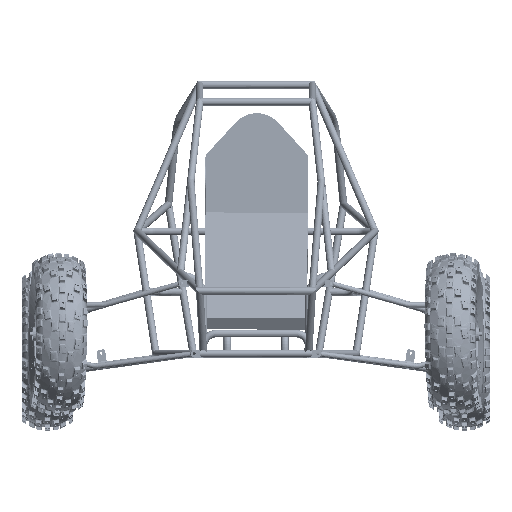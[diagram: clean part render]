
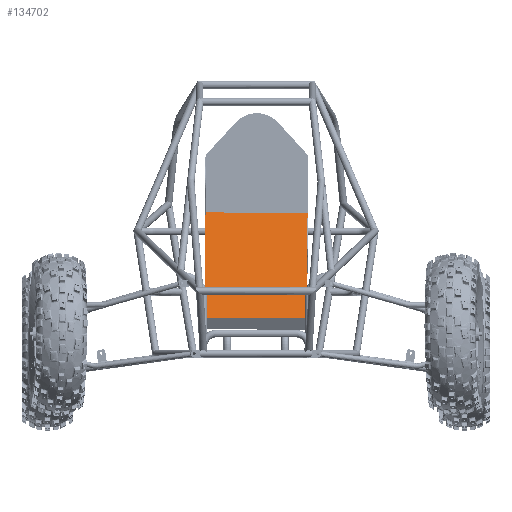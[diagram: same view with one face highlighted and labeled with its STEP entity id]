
A CAD part, top view. The second image highlights one B-rep face of the part: STEP entity #134702.
In plain terms, the highlighted planar face has unit normal (-0.002, 0.292, 0.956) as drawn and (-0.949, 0, -0.314) by its records, which use the part's own axes.
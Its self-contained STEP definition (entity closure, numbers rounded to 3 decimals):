
#5469 = DIRECTION ( 'NONE',  ( -0.314, 0., 0.949 ) ) ;
#5470 = VECTOR ( 'NONE', #5469, 1000. ) ;
#5471 = CARTESIAN_POINT ( 'NONE',  ( 2157.312, 410., -30.586 ) ) ;
#5472 = LINE ( 'NONE', #5471, #5470 ) ;
#5477 = CARTESIAN_POINT ( 'NONE',  ( 2308.43, 410., -486.933 ) ) ;
#5558 = CARTESIAN_POINT ( 'NONE',  ( 2157.312, 410., -30.586 ) ) ;
#7250 = CARTESIAN_POINT ( 'NONE',  ( 2308.43, 0., -486.933 ) ) ;
#7308 = LINE ( 'NONE', #7408, #7407 ) ;
#7310 = CARTESIAN_POINT ( 'NONE',  ( 2157.312, 0., -30.586 ) ) ;
#7405 = DIRECTION ( 'NONE',  ( -0.314, 0., 0.949 ) ) ;
#7407 = VECTOR ( 'NONE', #7405, 1000. ) ;
#7408 = CARTESIAN_POINT ( 'NONE',  ( 2157.312, 0., -30.586 ) ) ;
#8951 = DIRECTION ( 'NONE',  ( 0., -1., 0. ) ) ;
#8952 = VECTOR ( 'NONE', #8951, 1000. ) ;
#8954 = CARTESIAN_POINT ( 'NONE',  ( 2308.43, 410., -486.933 ) ) ;
#8963 = LINE ( 'NONE', #8954, #8952 ) ;
#9645 = DIRECTION ( 'NONE',  ( 0., -1., 0. ) ) ;
#9647 = VECTOR ( 'NONE', #9645, 1000. ) ;
#9649 = CARTESIAN_POINT ( 'NONE',  ( 2157.312, 410., -30.586 ) ) ;
#9671 = LINE ( 'NONE', #9649, #9647 ) ;
#9887 = CARTESIAN_POINT ( 'NONE',  ( 2157.312, 410., -30.586 ) ) ;
#9888 = PLANE ( 'NONE',  #9987 ) ;
#9897 = FACE_OUTER_BOUND ( 'NONE', #134706, .T. ) ;
#9984 = DIRECTION ( 'NONE',  ( 0.314, 0., -0.949 ) ) ;
#9985 = DIRECTION ( 'NONE',  ( 0.949, 0., 0.314 ) ) ;
#9987 = AXIS2_PLACEMENT_3D ( 'NONE', #9887, #9985, #9984 ) ;
#131810 = VERTEX_POINT ( 'NONE', #5477 ) ;
#131821 = EDGE_CURVE ( 'NONE', #131810, #131824, #5472, .T. ) ;
#131824 = VERTEX_POINT ( 'NONE', #5558 ) ;
#132928 = VERTEX_POINT ( 'NONE', #7250 ) ;
#132974 = VERTEX_POINT ( 'NONE', #7310 ) ;
#132985 = EDGE_CURVE ( 'NONE', #132928, #132974, #7308, .T. ) ;
#133967 = EDGE_CURVE ( 'NONE', #131810, #132928, #8963, .T. ) ;
#134513 = EDGE_CURVE ( 'NONE', #131824, #132974, #9671, .T. ) ;
#134515 = ORIENTED_EDGE ( 'NONE', *, *, #134513, .F. ) ;
#134520 = ORIENTED_EDGE ( 'NONE', *, *, #131821, .F. ) ;
#134523 = ORIENTED_EDGE ( 'NONE', *, *, #133967, .T. ) ;
#134702 = ADVANCED_FACE ( 'NONE', ( #9897 ), #9888, .F. ) ;
#134706 = EDGE_LOOP ( 'NONE', ( #134709, #134515, #134520, #134523 ) ) ;
#134709 = ORIENTED_EDGE ( 'NONE', *, *, #132985, .T. ) ;
